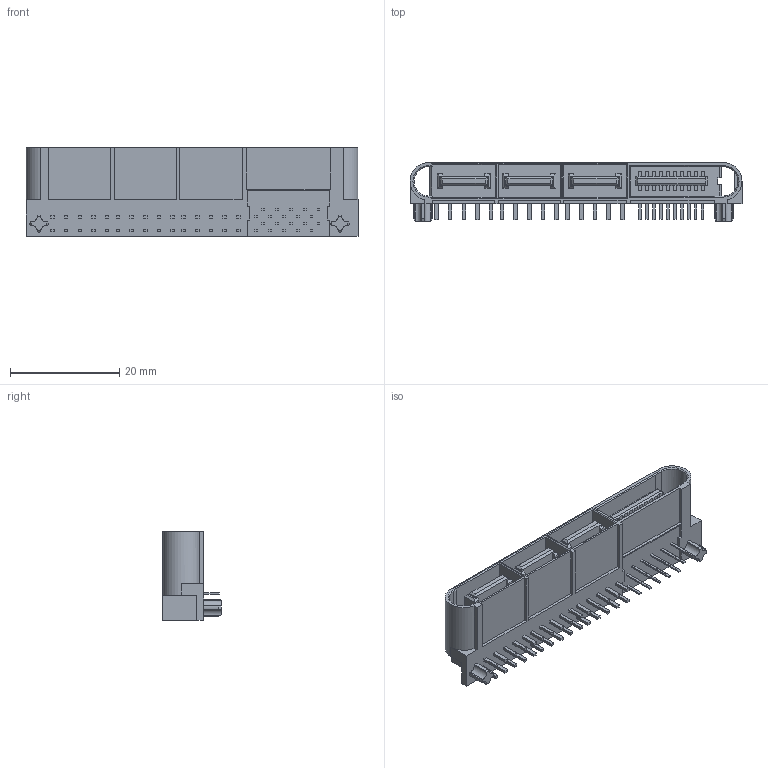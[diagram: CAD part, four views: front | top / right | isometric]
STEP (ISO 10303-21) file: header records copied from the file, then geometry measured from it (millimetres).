
FILE_DESCRIPTION((''),'2;1');
FILE_NAME('459856433','2020-10-29T',('me'),(''),'PRO/ENGINEER BY PARAMETRIC TECHNOLOGY CORPORATION, 2016010','PRO/ENGINEER BY PARAMETRIC TECHNOLOGY CORPORATION, 2016010','');
FILE_SCHEMA(('CONFIG_CONTROL_DESIGN'));
Length unit declared in the file: millimetre
Products named in the file (1): 459856433
Bounding box: 60.74 x 10.74 x 16.28 mm (x, y, z)
Volume: 3772.3 mm3; surface area: 6108.6 mm2
Topology: 1 solids, 1 shells, 898 faces, 2573 edges, 1734 vertices
Faces by surface type: plane 826, cylinder 62, cone 10
Entity records: 28956 total; most frequent: CARTESIAN_POINT 5172, ORIENTED_EDGE 4938, DIRECTION 4625, EDGE_CURVE 2469, VECTOR 2263, LINE 2263, VERTEX_POINT 1630, AXIS2_PLACEMENT_3D 1181
